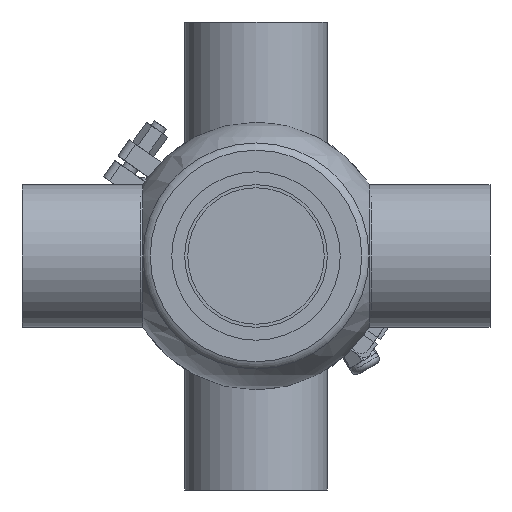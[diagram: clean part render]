
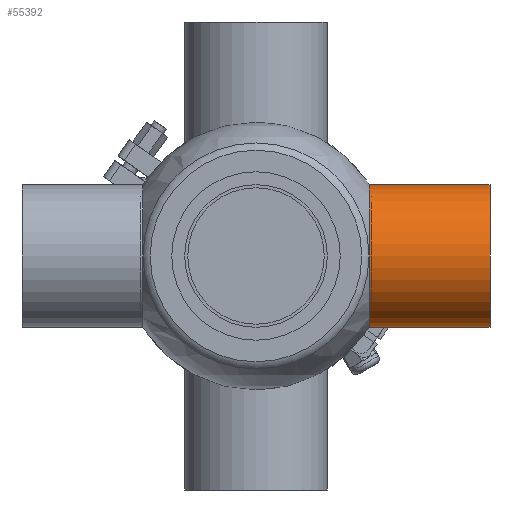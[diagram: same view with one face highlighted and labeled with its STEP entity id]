
A CAD part, front view. The second image highlights one B-rep face of the part: STEP entity #55392.
In plain terms, the highlighted cylindrical face has radius 38.1 mm (diameter 76.2 mm), a full revolution.
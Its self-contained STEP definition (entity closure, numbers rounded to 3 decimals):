
#6619 = DIRECTION ( 'NONE',  ( 1., 0., 0. ) ) ;
#8148 = CARTESIAN_POINT ( 'NONE',  ( 0., 0., 0. ) ) ;
#13010 = CARTESIAN_POINT ( 'NONE',  ( 125., 0., 38.1 ) ) ;
#13087 = CIRCLE ( 'NONE', #48728, 38.1 ) ;
#15762 = DIRECTION ( 'NONE',  ( 0., 0., 1. ) ) ;
#20115 = CARTESIAN_POINT ( 'NONE',  ( 125., 0., 0. ) ) ;
#21137 = EDGE_CURVE ( 'NONE', #55807, #55807, #31615, .T. ) ;
#25601 = DIRECTION ( 'NONE',  ( 0., 0., 1. ) ) ;
#26512 = DIRECTION ( 'NONE',  ( -1., 0., 0. ) ) ;
#31615 = CIRCLE ( 'NONE', #50368, 38.1 ) ;
#32524 = VERTEX_POINT ( 'NONE', #51416 ) ;
#34976 = EDGE_CURVE ( 'NONE', #32524, #32524, #13087, .T. ) ;
#36687 = FACE_OUTER_BOUND ( 'NONE', #40339, .T. ) ;
#38920 = CARTESIAN_POINT ( 'NONE',  ( 60.503, 0., 0. ) ) ;
#39030 = DIRECTION ( 'NONE',  ( -1., 0., 0. ) ) ;
#39657 = ORIENTED_EDGE ( 'NONE', *, *, #34976, .T. ) ;
#40339 = EDGE_LOOP ( 'NONE', ( #61305 ) ) ;
#41392 = CYLINDRICAL_SURFACE ( 'NONE', #48279, 38.1 ) ;
#48279 = AXIS2_PLACEMENT_3D ( 'NONE', #8148, #26512, #55007 ) ;
#48728 = AXIS2_PLACEMENT_3D ( 'NONE', #38920, #6619, #25601 ) ;
#50368 = AXIS2_PLACEMENT_3D ( 'NONE', #20115, #39030, #15762 ) ;
#51416 = CARTESIAN_POINT ( 'NONE',  ( 60.503, 0., 38.1 ) ) ;
#55007 = DIRECTION ( 'NONE',  ( 0., 0., 1. ) ) ;
#55392 = ADVANCED_FACE ( 'NONE', ( #55610, #36687 ), #41392, .T. ) ;
#55610 = FACE_OUTER_BOUND ( 'NONE', #59476, .T. ) ;
#55807 = VERTEX_POINT ( 'NONE', #13010 ) ;
#59476 = EDGE_LOOP ( 'NONE', ( #39657 ) ) ;
#61305 = ORIENTED_EDGE ( 'NONE', *, *, #21137, .T. ) ;
